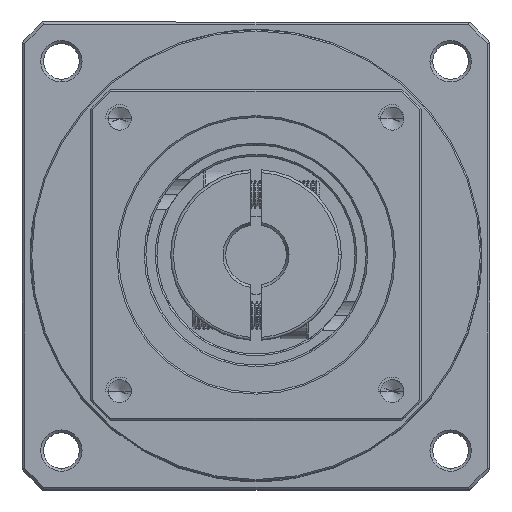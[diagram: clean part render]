
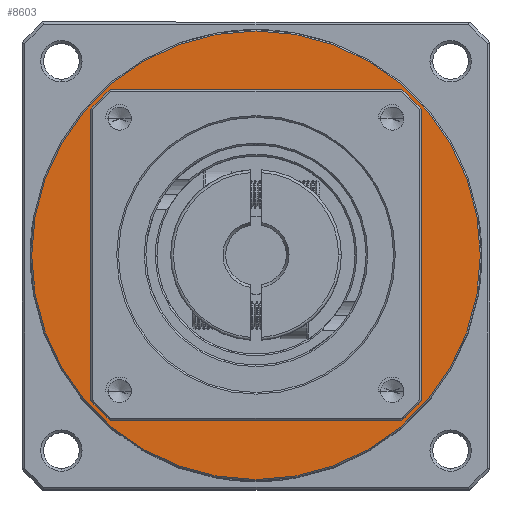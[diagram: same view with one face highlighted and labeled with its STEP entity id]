
A CAD part, top view. The second image highlights one B-rep face of the part: STEP entity #8603.
In plain terms, the highlighted planar face has unit normal (0, 0, 1).
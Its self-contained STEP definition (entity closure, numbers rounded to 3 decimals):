
#2863 = EDGE_LOOP ( 'NONE', ( #75450, #21408 ) ) ;
#8603 = ADVANCED_FACE ( 'NONE', ( #53438, #53540 ), #17463, .T. ) ;
#13826 = CARTESIAN_POINT ( 'NONE',  ( -63.871, 20.584, -29.394 ) ) ;
#17463 = PLANE ( 'NONE',  #41619 ) ;
#18531 = CIRCLE ( 'NONE', #90063, 40.75 ) ;
#21408 = ORIENTED_EDGE ( 'NONE', *, *, #89606, .T. ) ;
#22068 = CARTESIAN_POINT ( 'NONE',  ( -63.871, 20.584, -29.394 ) ) ;
#22722 = DIRECTION ( 'NONE',  ( -1., 0., 0. ) ) ;
#25955 = CARTESIAN_POINT ( 'NONE',  ( -23.121, 20.584, -29.394 ) ) ;
#30890 = DIRECTION ( 'NONE',  ( -1., 0., 0. ) ) ;
#36218 = AXIS2_PLACEMENT_3D ( 'NONE', #13826, #75133, #22722 ) ;
#41619 = AXIS2_PLACEMENT_3D ( 'NONE', #112498, #110237, #109835 ) ;
#47005 = DIRECTION ( 'NONE',  ( 0., 0., -1. ) ) ;
#47081 = VERTEX_POINT ( 'NONE', #67189 ) ;
#47366 = DIRECTION ( 'NONE',  ( 0., 0., -1. ) ) ;
#47786 = ORIENTED_EDGE ( 'NONE', *, *, #75316, .F. ) ;
#47823 = EDGE_CURVE ( 'NONE', #61950, #47081, #70774, .T. ) ;
#53438 = FACE_OUTER_BOUND ( 'NONE', #55066, .T. ) ;
#53540 = FACE_BOUND ( 'NONE', #2863, .T. ) ;
#55066 = EDGE_LOOP ( 'NONE', ( #60971, #47786 ) ) ;
#60278 = AXIS2_PLACEMENT_3D ( 'NONE', #99163, #47005, #107883 ) ;
#60971 = ORIENTED_EDGE ( 'NONE', *, *, #78627, .F. ) ;
#61950 = VERTEX_POINT ( 'NONE', #103844 ) ;
#65899 = AXIS2_PLACEMENT_3D ( 'NONE', #99510, #47366, #108219 ) ;
#67189 = CARTESIAN_POINT ( 'NONE',  ( -33.871, 20.584, -29.394 ) ) ;
#70774 = CIRCLE ( 'NONE', #60278, 30. ) ;
#75133 = DIRECTION ( 'NONE',  ( 0., 0., -1. ) ) ;
#75316 = EDGE_CURVE ( 'NONE', #76467, #111851, #97364, .T. ) ;
#75450 = ORIENTED_EDGE ( 'NONE', *, *, #47823, .T. ) ;
#76467 = VERTEX_POINT ( 'NONE', #25955 ) ;
#78627 = EDGE_CURVE ( 'NONE', #111851, #76467, #18531, .T. ) ;
#83239 = DIRECTION ( 'NONE',  ( 0., 0., -1. ) ) ;
#88770 = CARTESIAN_POINT ( 'NONE',  ( -104.621, 20.584, -29.394 ) ) ;
#89606 = EDGE_CURVE ( 'NONE', #47081, #61950, #107842, .T. ) ;
#90063 = AXIS2_PLACEMENT_3D ( 'NONE', #22068, #83239, #30890 ) ;
#97364 = CIRCLE ( 'NONE', #36218, 40.75 ) ;
#99163 = CARTESIAN_POINT ( 'NONE',  ( -63.871, 20.584, -29.394 ) ) ;
#99510 = CARTESIAN_POINT ( 'NONE',  ( -63.871, 20.584, -29.394 ) ) ;
#103844 = CARTESIAN_POINT ( 'NONE',  ( -93.871, 20.584, -29.394 ) ) ;
#107842 = CIRCLE ( 'NONE', #65899, 30. ) ;
#107883 = DIRECTION ( 'NONE',  ( -1., 0., 0. ) ) ;
#108219 = DIRECTION ( 'NONE',  ( -1., 0., 0. ) ) ;
#109835 = DIRECTION ( 'NONE',  ( 1., 0., 0. ) ) ;
#110237 = DIRECTION ( 'NONE',  ( 0., 0., 1. ) ) ;
#111851 = VERTEX_POINT ( 'NONE', #88770 ) ;
#112498 = CARTESIAN_POINT ( 'NONE',  ( -63.871, 20.584, -29.394 ) ) ;
